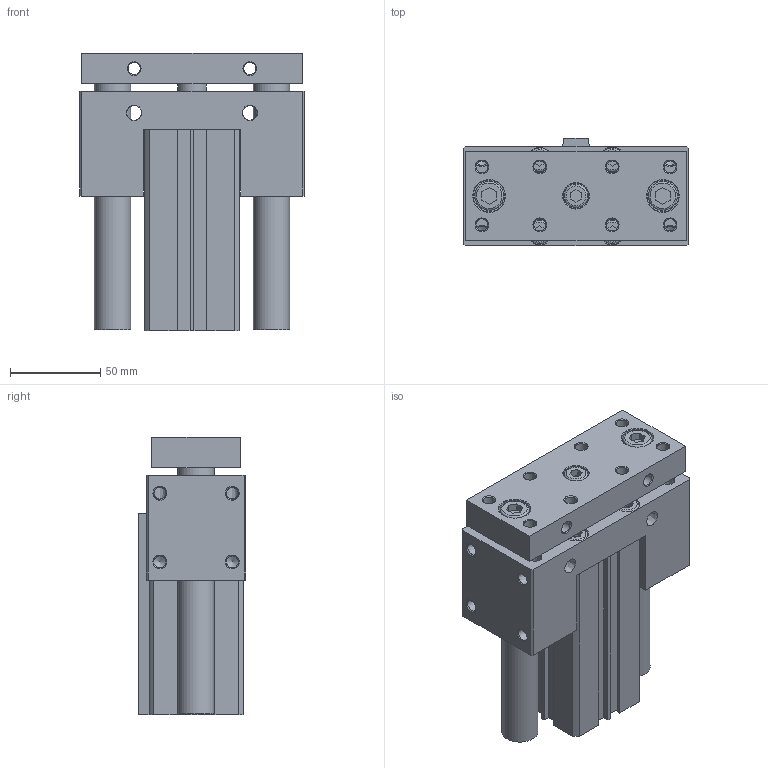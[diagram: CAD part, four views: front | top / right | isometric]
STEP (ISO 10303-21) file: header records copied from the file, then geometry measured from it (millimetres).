
FILE_DESCRIPTION((''),'2;1');
FILE_NAME('I:\3D電子目錄\氣缸\JCB\JCB\JCB40-S\JCB40x75-S.stp','2007-08-23T20:16:08',('Administrator'),(''),'Autodesk Inventor 11','Autodesk Inventor 11','');
FILE_SCHEMA(('AUTOMOTIVE_DESIGN { 1 0 10303 214 1 1 1 1 }'));
Length unit declared in the file: millimetre
Products named in the file (1): JCB40
Bounding box: 124 x 59.5 x 153.5 mm (x, y, z)
Volume: 665257.9 mm3; surface area: 140123.9 mm2
Topology: 3 solids, 3 shells, 303 faces, 731 edges, 473 vertices
Faces by surface type: plane 163, cylinder 52, cone 47, bspline 33, torus 8
Full cylindrical faces by diameter (mm): 2.2 x2, 6.647 x4, 6.8 x4, 10 x8, 13 x5, 14 x5, 16 x3, 17 x1, 17.5 x2, 20 x2, 23 x2, 28 x1, 29 x1, 42 x4, 44.5 x2
Entity records: 8528 total; most frequent: CARTESIAN_POINT 2090, DIRECTION 1302, ORIENTED_EDGE 1114, EDGE_CURVE 557, EDGE_LOOP 522, AXIS2_PLACEMENT_3D 480, VERTEX_POINT 435, VECTOR 342
